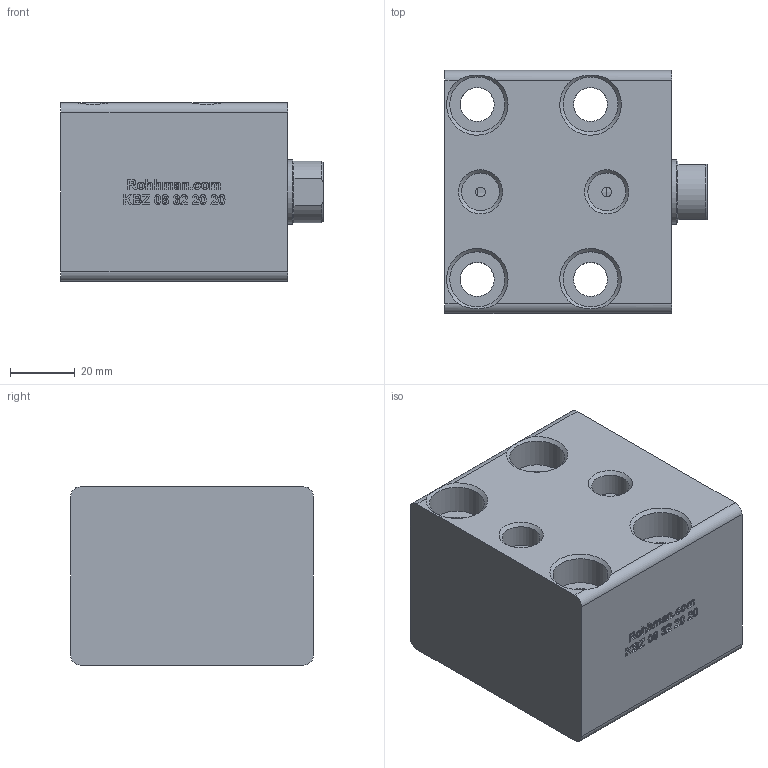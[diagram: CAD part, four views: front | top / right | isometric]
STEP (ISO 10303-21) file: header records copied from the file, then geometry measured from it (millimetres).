
FILE_DESCRIPTION(/* description */ (''),/* implementation_level */ '2;1');
FILE_NAME(/* name */ 'KBZ_08_32_20_20_WEB.step',/* time_stamp */ '2023-09-02T12:29:33+03:00',/* author */ (''),/* organization */ (''),/* preprocessor_version */ 'ST-DEVELOPER v20',/* originating_system */ 'Autodesk Translation Framework v12.9.0.99',/* authorisation */ '');
FILE_SCHEMA (('AUTOMOTIVE_DESIGN { 1 0 10303 214 3 1 1 }'));
Length unit declared in the file: millimetre
Products named in the file (7): KBZ_08_32_20_100_TRACE_PART; KAPAK; KAPAK_1; GÖVDE; GÖVDE_1; Ø20_MİL; Ø20 mil
Assembly tree (6 placements, depth 3):
  KBZ_08_32_20_100_TRACE_PART
    KAPAK
      KAPAK_1
    GÖVDE
      GÖVDE_1
    Ø20_MİL
      Ø20 mil
Bounding box: 81 x 75 x 55 mm (x, y, z)
Volume: 231784 mm3; surface area: 50611.3 mm2
Topology: 3 solids, 3 shells, 581 faces, 1588 edges, 1052 vertices
Faces by surface type: bspline 360, plane 175, cylinder 28, cone 18
Full cylindrical faces by diameter (mm): 3 x4, 10.274 x1, 10.5 x4, 11.668 x2, 17 x4, 20 x1, 20.5 x1, 32 x1, 36 x2, 45 x2
Entity records: 21975 total; most frequent: CARTESIAN_POINT 9479, ORIENTED_EDGE 3176, EDGE_CURVE 1588, DIRECTION 1407, VERTEX_POINT 1052, LINE 773, VECTOR 773, B_SPLINE_CURVE_WITH_KNOTS 729
